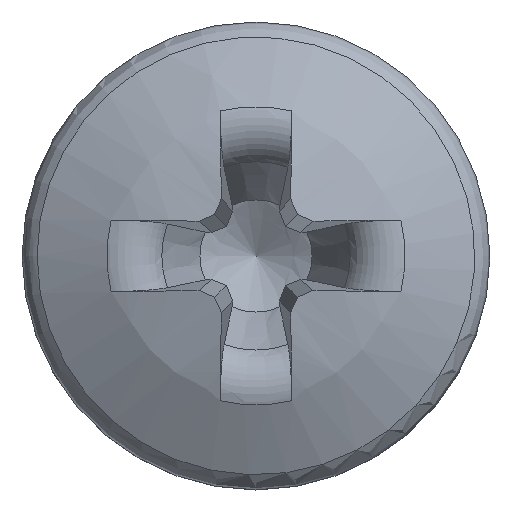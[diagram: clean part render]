
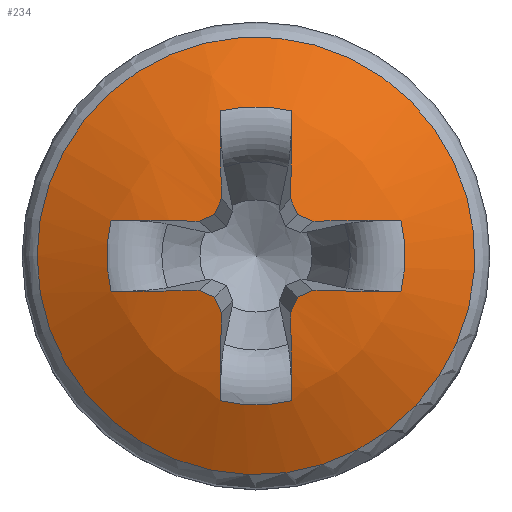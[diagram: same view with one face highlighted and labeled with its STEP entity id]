
A CAD part, top view. The second image highlights one B-rep face of the part: STEP entity #234.
In plain terms, the highlighted spherical face has radius 4.789 mm.
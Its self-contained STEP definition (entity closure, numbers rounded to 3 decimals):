
#197=SPHERICAL_SURFACE('',#1320,4.789);
#208=FACE_BOUND('',#387,.T.);
#209=FACE_BOUND('',#388,.T.);
#234=ADVANCED_FACE('',(#208,#209),#197,.T.);
#387=EDGE_LOOP('',(#547));
#388=EDGE_LOOP('',(#548,#549,#550,#551,#552,#553,#554,#555,#556,#557,#558,
#559,#560,#561,#562,#563,#564,#565,#566,#567));
#474=CIRCLE('',#1299,2.48);
#475=CIRCLE('',#1300,4.789);
#476=CIRCLE('',#1301,1.691);
#477=CIRCLE('',#1302,4.789);
#478=CIRCLE('',#1303,4.789);
#479=CIRCLE('',#1304,4.789);
#480=CIRCLE('',#1305,4.789);
#481=CIRCLE('',#1306,1.691);
#482=CIRCLE('',#1307,4.789);
#483=CIRCLE('',#1308,4.789);
#484=CIRCLE('',#1309,4.789);
#485=CIRCLE('',#1310,4.789);
#486=CIRCLE('',#1311,1.691);
#487=CIRCLE('',#1312,4.789);
#488=CIRCLE('',#1313,4.789);
#489=CIRCLE('',#1314,4.789);
#490=CIRCLE('',#1315,4.789);
#491=CIRCLE('',#1316,1.691);
#492=CIRCLE('',#1317,4.789);
#493=CIRCLE('',#1318,4.789);
#494=CIRCLE('',#1319,4.789);
#547=ORIENTED_EDGE('',*,*,#1041,.T.);
#548=ORIENTED_EDGE('',*,*,#1042,.F.);
#549=ORIENTED_EDGE('',*,*,#1043,.T.);
#550=ORIENTED_EDGE('',*,*,#1044,.F.);
#551=ORIENTED_EDGE('',*,*,#1045,.F.);
#552=ORIENTED_EDGE('',*,*,#1046,.F.);
#553=ORIENTED_EDGE('',*,*,#1047,.F.);
#554=ORIENTED_EDGE('',*,*,#1048,.T.);
#555=ORIENTED_EDGE('',*,*,#1049,.F.);
#556=ORIENTED_EDGE('',*,*,#1050,.F.);
#557=ORIENTED_EDGE('',*,*,#1051,.F.);
#558=ORIENTED_EDGE('',*,*,#1052,.F.);
#559=ORIENTED_EDGE('',*,*,#1053,.T.);
#560=ORIENTED_EDGE('',*,*,#1054,.F.);
#561=ORIENTED_EDGE('',*,*,#1055,.F.);
#562=ORIENTED_EDGE('',*,*,#1056,.F.);
#563=ORIENTED_EDGE('',*,*,#1057,.F.);
#564=ORIENTED_EDGE('',*,*,#1058,.T.);
#565=ORIENTED_EDGE('',*,*,#1059,.F.);
#566=ORIENTED_EDGE('',*,*,#1060,.F.);
#567=ORIENTED_EDGE('',*,*,#1061,.F.);
#919=VERTEX_POINT('',#3094);
#920=VERTEX_POINT('',#3096);
#921=VERTEX_POINT('',#3097);
#922=VERTEX_POINT('',#3099);
#923=VERTEX_POINT('',#3101);
#924=VERTEX_POINT('',#3103);
#925=VERTEX_POINT('',#3105);
#926=VERTEX_POINT('',#3107);
#927=VERTEX_POINT('',#3109);
#928=VERTEX_POINT('',#3111);
#929=VERTEX_POINT('',#3113);
#930=VERTEX_POINT('',#3115);
#931=VERTEX_POINT('',#3117);
#932=VERTEX_POINT('',#3119);
#933=VERTEX_POINT('',#3121);
#934=VERTEX_POINT('',#3123);
#935=VERTEX_POINT('',#3125);
#936=VERTEX_POINT('',#3127);
#937=VERTEX_POINT('',#3129);
#938=VERTEX_POINT('',#3131);
#939=VERTEX_POINT('',#3133);
#1041=EDGE_CURVE('',#919,#919,#474,.T.);
#1042=EDGE_CURVE('',#920,#921,#475,.T.);
#1043=EDGE_CURVE('',#920,#922,#476,.T.);
#1044=EDGE_CURVE('',#923,#922,#477,.T.);
#1045=EDGE_CURVE('',#924,#923,#478,.T.);
#1046=EDGE_CURVE('',#925,#924,#479,.T.);
#1047=EDGE_CURVE('',#926,#925,#480,.T.);
#1048=EDGE_CURVE('',#926,#927,#481,.T.);
#1049=EDGE_CURVE('',#928,#927,#482,.T.);
#1050=EDGE_CURVE('',#929,#928,#483,.T.);
#1051=EDGE_CURVE('',#930,#929,#484,.T.);
#1052=EDGE_CURVE('',#931,#930,#485,.T.);
#1053=EDGE_CURVE('',#931,#932,#486,.T.);
#1054=EDGE_CURVE('',#933,#932,#487,.T.);
#1055=EDGE_CURVE('',#934,#933,#488,.T.);
#1056=EDGE_CURVE('',#935,#934,#489,.T.);
#1057=EDGE_CURVE('',#936,#935,#490,.T.);
#1058=EDGE_CURVE('',#936,#937,#491,.T.);
#1059=EDGE_CURVE('',#938,#937,#492,.T.);
#1060=EDGE_CURVE('',#939,#938,#493,.T.);
#1061=EDGE_CURVE('',#921,#939,#494,.T.);
#1299=AXIS2_PLACEMENT_3D('',#3093,#1384,#1385);
#1300=AXIS2_PLACEMENT_3D('',#3095,#1386,#1387);
#1301=AXIS2_PLACEMENT_3D('',#3098,#1388,#1389);
#1302=AXIS2_PLACEMENT_3D('',#3100,#1390,#1391);
#1303=AXIS2_PLACEMENT_3D('',#3102,#1392,#1393);
#1304=AXIS2_PLACEMENT_3D('',#3104,#1394,#1395);
#1305=AXIS2_PLACEMENT_3D('',#3106,#1396,#1397);
#1306=AXIS2_PLACEMENT_3D('',#3108,#1398,#1399);
#1307=AXIS2_PLACEMENT_3D('',#3110,#1400,#1401);
#1308=AXIS2_PLACEMENT_3D('',#3112,#1402,#1403);
#1309=AXIS2_PLACEMENT_3D('',#3114,#1404,#1405);
#1310=AXIS2_PLACEMENT_3D('',#3116,#1406,#1407);
#1311=AXIS2_PLACEMENT_3D('',#3118,#1408,#1409);
#1312=AXIS2_PLACEMENT_3D('',#3120,#1410,#1411);
#1313=AXIS2_PLACEMENT_3D('',#3122,#1412,#1413);
#1314=AXIS2_PLACEMENT_3D('',#3124,#1414,#1415);
#1315=AXIS2_PLACEMENT_3D('',#3126,#1416,#1417);
#1316=AXIS2_PLACEMENT_3D('',#3128,#1418,#1419);
#1317=AXIS2_PLACEMENT_3D('',#3130,#1420,#1421);
#1318=AXIS2_PLACEMENT_3D('',#3132,#1422,#1423);
#1319=AXIS2_PLACEMENT_3D('',#3134,#1424,#1425);
#1320=AXIS2_PLACEMENT_3D('',#3135,#1426,#1427);
#1384=DIRECTION('',(0.,0.,1.));
#1385=DIRECTION('',(-1.,0.,0.));
#1386=DIRECTION('',(-0.035,0.996,0.087));
#1387=DIRECTION('',(0.,-0.087,0.996));
#1388=DIRECTION('',(0.,0.,-1.));
#1389=DIRECTION('',(-1.,0.,0.));
#1390=DIRECTION('',(-0.035,-0.996,0.087));
#1391=DIRECTION('',(0.,-0.087,-0.996));
#1392=DIRECTION('',(0.404,-0.907,0.122));
#1393=DIRECTION('',(0.914,0.407,0.));
#1394=DIRECTION('',(0.907,-0.404,0.122));
#1395=DIRECTION('',(0.407,0.914,0.));
#1396=DIRECTION('',(0.996,0.035,0.087));
#1397=DIRECTION('',(0.087,0.,-0.996));
#1398=DIRECTION('',(0.,0.,-1.));
#1399=DIRECTION('',(-1.,0.,0.));
#1400=DIRECTION('',(-0.996,0.035,0.087));
#1401=DIRECTION('',(0.087,0.,0.996));
#1402=DIRECTION('',(-0.907,-0.404,0.122));
#1403=DIRECTION('',(0.407,-0.914,0.));
#1404=DIRECTION('',(-0.404,-0.907,0.122));
#1405=DIRECTION('',(0.914,-0.407,0.));
#1406=DIRECTION('',(0.035,-0.996,0.087));
#1407=DIRECTION('',(0.,-0.087,-0.996));
#1408=DIRECTION('',(0.,0.,-1.));
#1409=DIRECTION('',(-1.,0.,0.));
#1410=DIRECTION('',(0.035,0.996,0.087));
#1411=DIRECTION('',(0.,-0.087,0.996));
#1412=DIRECTION('',(-0.404,0.907,0.122));
#1413=DIRECTION('',(-0.914,-0.407,0.));
#1414=DIRECTION('',(-0.907,0.404,0.122));
#1415=DIRECTION('',(-0.407,-0.914,0.));
#1416=DIRECTION('',(-0.996,-0.035,0.087));
#1417=DIRECTION('',(0.087,0.,0.996));
#1418=DIRECTION('',(0.,0.,-1.));
#1419=DIRECTION('',(-1.,0.,0.));
#1420=DIRECTION('',(0.996,-0.035,0.087));
#1421=DIRECTION('',(0.087,0.,-0.996));
#1422=DIRECTION('',(0.907,0.404,0.122));
#1423=DIRECTION('',(-0.407,0.914,0.));
#1424=DIRECTION('',(0.404,0.907,0.122));
#1425=DIRECTION('',(-0.914,0.407,0.));
#1426=DIRECTION('',(0.,0.,1.));
#1427=DIRECTION('',(0.,1.,0.));
#3093=CARTESIAN_POINT('',(0.,0.,1.308));
#3094=CARTESIAN_POINT('',(-2.48,0.,1.308));
#3095=CARTESIAN_POINT('',(-0.002,0.045,-2.785));
#3096=CARTESIAN_POINT('',(-1.642,-0.405,1.691));
#3097=CARTESIAN_POINT('',(-0.644,-0.392,1.94));
#3098=CARTESIAN_POINT('',(0.,0.,1.691));
#3099=CARTESIAN_POINT('',(-1.642,0.405,1.691));
#3100=CARTESIAN_POINT('',(-0.002,-0.045,-2.785));
#3101=CARTESIAN_POINT('',(-0.644,0.392,1.94));
#3102=CARTESIAN_POINT('',(-0.016,0.035,-2.794));
#3103=CARTESIAN_POINT('',(-0.471,0.471,1.954));
#3104=CARTESIAN_POINT('',(-0.035,0.016,-2.794));
#3105=CARTESIAN_POINT('',(-0.392,0.644,1.94));
#3106=CARTESIAN_POINT('',(0.045,0.002,-2.785));
#3107=CARTESIAN_POINT('',(-0.405,1.642,1.691));
#3108=CARTESIAN_POINT('',(0.,0.,1.691));
#3109=CARTESIAN_POINT('',(0.405,1.642,1.691));
#3110=CARTESIAN_POINT('',(-0.045,0.002,-2.785));
#3111=CARTESIAN_POINT('',(0.392,0.644,1.94));
#3112=CARTESIAN_POINT('',(0.035,0.016,-2.794));
#3113=CARTESIAN_POINT('',(0.471,0.471,1.954));
#3114=CARTESIAN_POINT('',(0.016,0.035,-2.794));
#3115=CARTESIAN_POINT('',(0.644,0.392,1.94));
#3116=CARTESIAN_POINT('',(0.002,-0.045,-2.785));
#3117=CARTESIAN_POINT('',(1.642,0.405,1.691));
#3118=CARTESIAN_POINT('',(0.,0.,1.691));
#3119=CARTESIAN_POINT('',(1.642,-0.405,1.691));
#3120=CARTESIAN_POINT('',(0.002,0.045,-2.785));
#3121=CARTESIAN_POINT('',(0.644,-0.392,1.94));
#3122=CARTESIAN_POINT('',(0.016,-0.035,-2.794));
#3123=CARTESIAN_POINT('',(0.471,-0.471,1.954));
#3124=CARTESIAN_POINT('',(0.035,-0.016,-2.794));
#3125=CARTESIAN_POINT('',(0.392,-0.644,1.94));
#3126=CARTESIAN_POINT('',(-0.045,-0.002,-2.785));
#3127=CARTESIAN_POINT('',(0.405,-1.642,1.691));
#3128=CARTESIAN_POINT('',(0.,0.,1.691));
#3129=CARTESIAN_POINT('',(-0.405,-1.642,1.691));
#3130=CARTESIAN_POINT('',(0.045,-0.002,-2.785));
#3131=CARTESIAN_POINT('',(-0.392,-0.644,1.94));
#3132=CARTESIAN_POINT('',(-0.035,-0.016,-2.794));
#3133=CARTESIAN_POINT('',(-0.471,-0.471,1.954));
#3134=CARTESIAN_POINT('',(-0.016,-0.035,-2.794));
#3135=CARTESIAN_POINT('',(0.,0.,-2.789));
